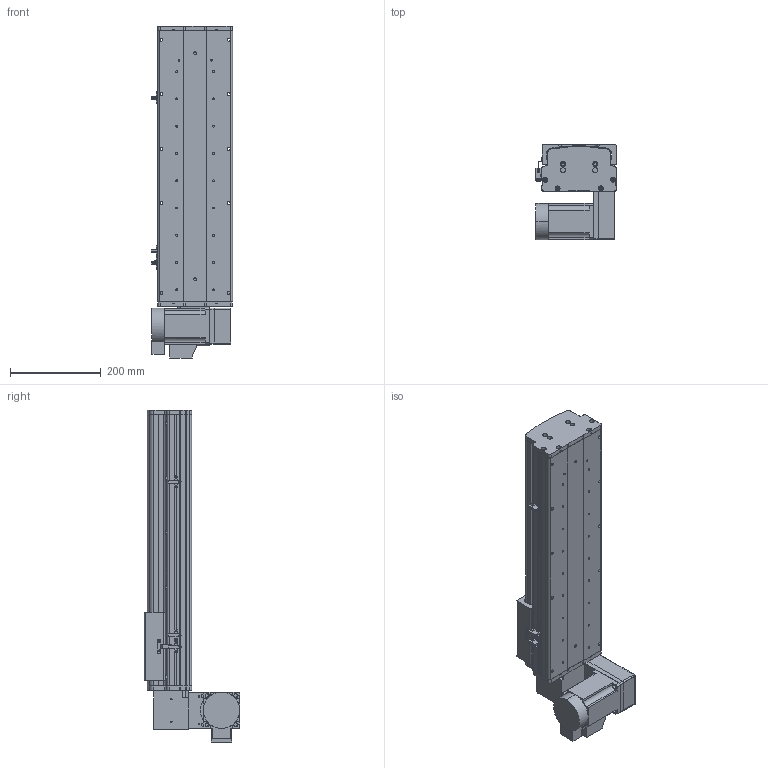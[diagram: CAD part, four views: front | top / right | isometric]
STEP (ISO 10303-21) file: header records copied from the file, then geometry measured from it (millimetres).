
FILE_DESCRIPTION (( 'STEP AP214' ), '1' );
FILE_NAME ('KSD165B-S350-MRD-CM .STEP', '2017-10-16T09:18:10', ( '微软用户' ), ( '微软中国' ), 'SwSTEP 2.0', 'SolidWorks 2014', '' );
FILE_SCHEMA (( 'AUTOMOTIVE_DESIGN' ));
Length unit declared in the file: millimetre
Products named in the file (17): KSD165B-S350-MRD-CM ; 130宽模组马达安装板连板上下折丝杆同步带; 130宽模组保护罩上下左右折-同步带; HTPA26S5M250-A-H8 400W萇儂蚚 ; HTPA26S5M250-A-H8 750W萇儂蚚; KSD165模组-同步带防尘盖1-350行程-最新版; KSD165模组同步带底板-350行程-最新; 拸秶雄ん750W侜督萇儂; 165宽马达安装板同步带右; U倰嫖萇假蚾璃; U倰嫖萇EEㄜSX672; 覜茼え68遵圉猾敕; KSD165模组-同步带-防撞垫2; KSD165模组同步带-防撞垫1; KSD165耀郪-ヶ傷啣1-肮祭湍; KSD165模组-后端板1-同步带; KSD165模组-同步带滑动座-最新版
Assembly tree (20 placements, depth 2):
  KSD165B-S350-MRD-CM 
    KSD165模组-同步带滑动座-最新版
    KSD165模组-后端板1-同步带
    KSD165耀郪-ヶ傷啣1-肮祭湍
    KSD165模组同步带-防撞垫1
    KSD165模组-同步带-防撞垫2
    覜茼え68遵圉猾敕
    U倰嫖萇EEㄜSX672  x3
    U倰嫖萇假蚾璃  x3
    165宽马达安装板同步带右
    拸秶雄ん750W侜督萇儂
    KSD165模组同步带底板-350行程-最新
    KSD165模组-同步带防尘盖1-350行程-最新版
    HTPA26S5M250-A-H8 750W萇儂蚚
    HTPA26S5M250-A-H8 400W萇儂蚚 
    130宽模组保护罩上下左右折-同步带
    130宽模组马达安装板连板上下折丝杆同步带
Bounding box: 178.7 x 210 x 730.5 mm (x, y, z)
Volume: 4986606.5 mm3; surface area: 1148528.5 mm2
Topology: 21 solids, 21 shells, 1871 faces, 5268 edges, 3436 vertices
Faces by surface type: cylinder 1183, plane 576, cone 112
Entity records: 59924 total; most frequent: CARTESIAN_POINT 12268, DIRECTION 9920, ORIENTED_EDGE 9196, EDGE_CURVE 4598, AXIS2_PLACEMENT_3D 3878, VERTEX_POINT 3028, CIRCLE 2204, LINE 2164
